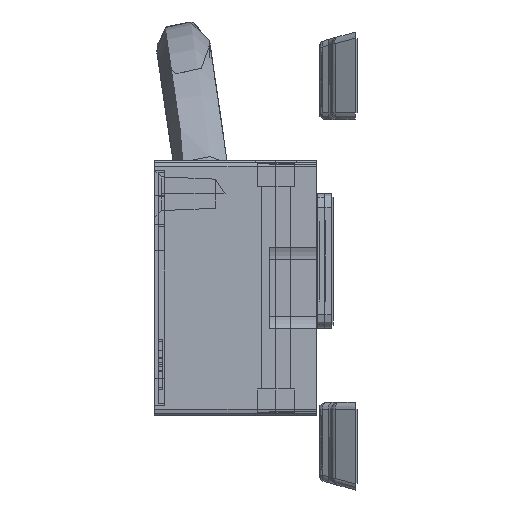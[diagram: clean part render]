
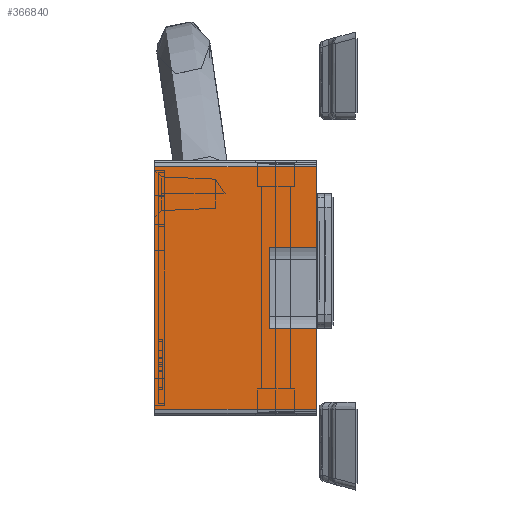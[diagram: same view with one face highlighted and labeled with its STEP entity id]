
A CAD part, left-side view. The second image highlights one B-rep face of the part: STEP entity #366840.
In plain terms, the highlighted planar face has unit normal (-1, 0, 0).
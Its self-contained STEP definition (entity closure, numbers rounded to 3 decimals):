
#360710=CARTESIAN_POINT('',(-46.,18.3,-12.));
#360720=VERTEX_POINT('',#360710);
#360750=CARTESIAN_POINT('',(-46.,0.3,-12.));
#360760=DIRECTION('',(0.,1.,0.));
#360770=VECTOR('',#360760,1.);
#360780=LINE('',#360750,#360770);
#360790=CARTESIAN_POINT('',(-46.,0.3,-12.));
#360800=VERTEX_POINT('',#360790);
#360810=EDGE_CURVE('',#360800,#360720,#360780,.T.);
#364510=CARTESIAN_POINT('',(-46.,18.3,0.)
);
#364520=VERTEX_POINT('',#364510);
#365930=CARTESIAN_POINT('',(-46.,0.3,0.)
);
#365940=VERTEX_POINT('',#365930);
#365970=CARTESIAN_POINT('',(-46.,0.3,0.)
);
#365980=DIRECTION('',(0.,1.,0.));
#365990=VECTOR('',#365980,1.);
#366000=LINE('',#365970,#365990);
#366010=CARTESIAN_POINT('',(-46.,6.328,0.))
;
#366020=VERTEX_POINT('',#366010);
#366030=EDGE_CURVE('',#365940,#366020,#366000,.T.);
#366270=CARTESIAN_POINT('',(-46.,12.272,0.))
;
#366280=VERTEX_POINT('',#366270);
#366310=CARTESIAN_POINT('',(-46.,12.272,0.))
;
#366320=DIRECTION('',(0.,1.,0.));
#366330=VECTOR('',#366320,1.);
#366340=LINE('',#366310,#366330);
#366350=EDGE_CURVE('',#366280,#364520,#366340,.T.);
#366400=CARTESIAN_POINT('',(-46.,17.8,-6.));
#366410=DIRECTION('',(-1.,0.,0.));
#366420=DIRECTION('',(0.,-1.,0.));
#366430=AXIS2_PLACEMENT_3D('',#366400,#366410,#366420);
#366440=PLANE('',#366430);
#366450=CARTESIAN_POINT('',(-46.,12.272,0.)
);
#366460=DIRECTION('',(0.,0.,-1.));
#366470=VECTOR('',#366460,1.);
#366480=LINE('',#366450,#366470);
#366490=CARTESIAN_POINT('',(-46.,12.272,-3.5));
#366500=VERTEX_POINT('',#366490);
#366510=EDGE_CURVE('',#366280,#366500,#366480,.T.);
#366520=ORIENTED_EDGE('',*,*,#366510,.F.);
#366530=CARTESIAN_POINT('',(-46.,12.272,-3.5));
#366540=DIRECTION('',(0.,-1.,0.));
#366550=VECTOR('',#366540,1.);
#366560=LINE('',#366530,#366550);
#366570=CARTESIAN_POINT('',(-46.,6.328,-3.5));
#366580=VERTEX_POINT('',#366570);
#366590=EDGE_CURVE('',#366500,#366580,#366560,.T.);
#366600=ORIENTED_EDGE('',*,*,#366590,.F.);
#366610=CARTESIAN_POINT('',(-46.,6.328,-3.5));
#366620=DIRECTION('',(0.,0.,1.));
#366630=VECTOR('',#366620,1.);
#366640=LINE('',#366610,#366630);
#366650=EDGE_CURVE('',#366580,#366020,#366640,.T.);
#366660=ORIENTED_EDGE('',*,*,#366650,.F.);
#366670=ORIENTED_EDGE('',*,*,#366030,.T.);
#366680=CARTESIAN_POINT('',(-46.,0.3,0.)
);
#366690=DIRECTION('',(0.,0.,-1.));
#366700=VECTOR('',#366690,1.);
#366710=LINE('',#366680,#366700);
#366720=EDGE_CURVE('',#365940,#360800,#366710,.T.);
#366730=ORIENTED_EDGE('',*,*,#366720,.F.);
#366740=ORIENTED_EDGE('',*,*,#360810,.F.);
#366750=CARTESIAN_POINT('',(-46.,18.3,-12.));
#366760=DIRECTION('',(0.,0.,1.));
#366770=VECTOR('',#366760,1.);
#366780=LINE('',#366750,#366770);
#366790=EDGE_CURVE('',#360720,#364520,#366780,.T.);
#366800=ORIENTED_EDGE('',*,*,#366790,.F.);
#366810=ORIENTED_EDGE('',*,*,#366350,.T.);
#366820=EDGE_LOOP('',(#366810,#366800,#366740,#366730,#366670,#366660,
#366600,#366520));
#366830=FACE_OUTER_BOUND('',#366820,.T.);
#366840=ADVANCED_FACE('',(#366830),#366440,.T.);
